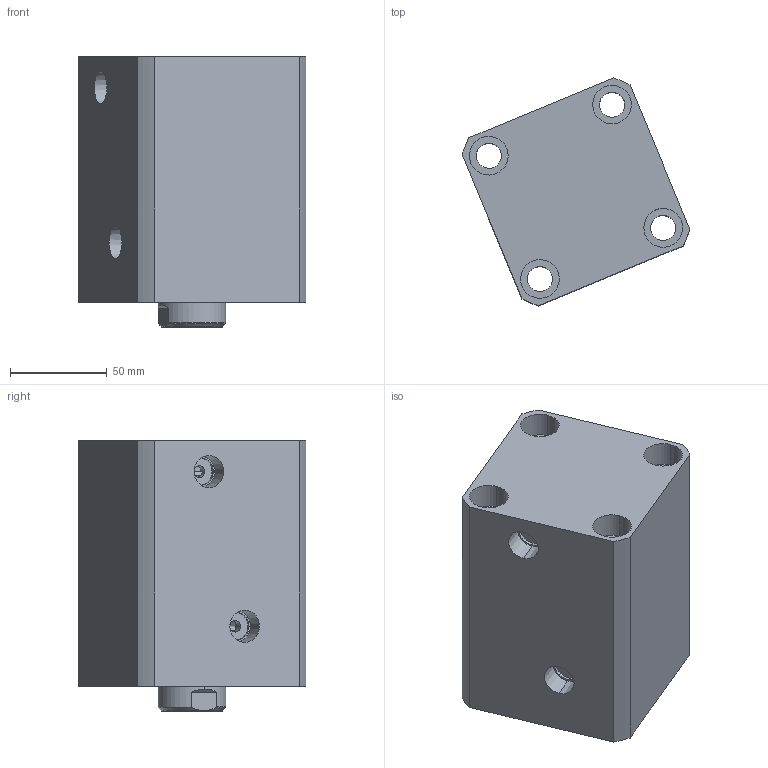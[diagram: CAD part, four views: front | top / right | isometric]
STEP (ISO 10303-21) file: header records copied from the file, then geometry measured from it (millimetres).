
FILE_DESCRIPTION (( 'STEP AP214' ), '1' );
FILE_NAME ('chtb-sd63x60n_asm.STEP', '2018-05-09T02:46:19', ( 'Windows' ), ( 'Microsoft' ), 'SwSTEP 2.0', 'SolidWorks 2015', '' );
FILE_SCHEMA (( 'AUTOMOTIVE_DESIGN' ));
Length unit declared in the file: millimetre
Products named in the file (4): CHTB63X60NHSG; CHTB63X60NBT; CHTB-63QG; chtb-sd63x60n_asm
Assembly tree (3 placements, depth 2):
  chtb-sd63x60n_asm
    CHTB-63QG
    CHTB63X60NBT
    CHTB63X60NHSG
Bounding box: 117.81 x 117.81 x 140 mm (x, y, z)
Volume: 894062 mm3; surface area: 152845.2 mm2
Topology: 3 solids, 3 shells, 165 faces, 465 edges, 318 vertices
Faces by surface type: cylinder 101, plane 33, bspline 12, cone 12, torus 7
Entity records: 17638 total; most frequent: CARTESIAN_POINT 13505, ORIENTED_EDGE 918, DIRECTION 719, EDGE_CURVE 459, VERTEX_POINT 318, AXIS2_PLACEMENT_3D 291, EDGE_LOOP 197, ADVANCED_FACE 165
